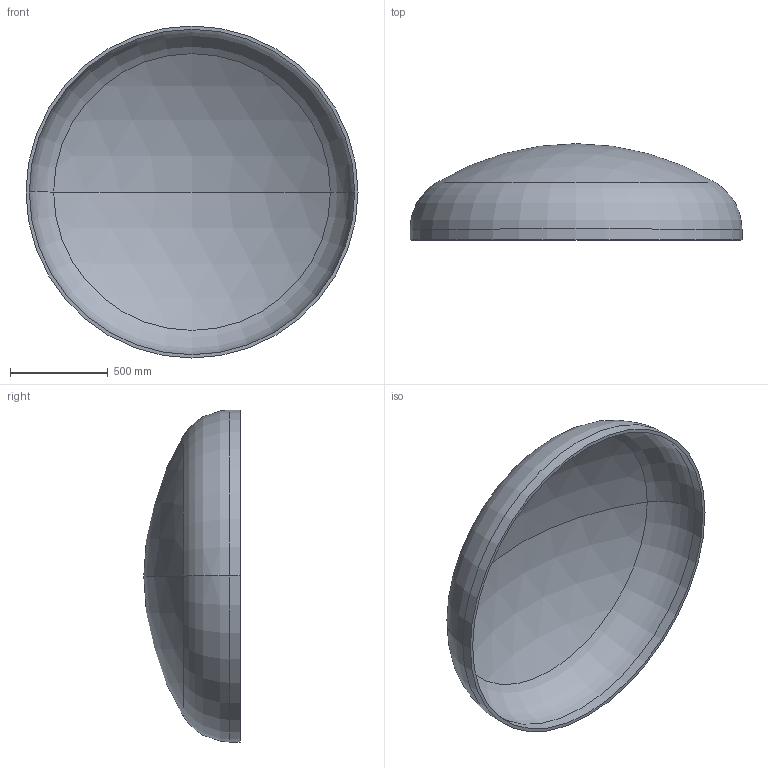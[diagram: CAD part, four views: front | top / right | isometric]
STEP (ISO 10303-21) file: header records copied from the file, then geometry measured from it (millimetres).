
FILE_DESCRIPTION (( 'STEP AP203' ), '1' );
FILE_NAME ('DIN 28013 Korbbogenform_-_Boden DIN 28013 - 1700 x 55 - I - s=17.step', '2016-07-01T11:39:20', ( '' ), ( '' ), 'SwSTEP 2.0', 'SolidWorks 2013', '' );
FILE_SCHEMA (( 'CONFIG_CONTROL_DESIGN' ));
Length unit declared in the file: millimetre
Products named in the file (1): DIN 28013 Korbbogenform_-_Boden DIN 28013 - 1700 x 55 - I - s=17
Bounding box: 1700 x 493.03 x 1700 mm (x, y, z)
Volume: 57612334.2 mm3; surface area: 6868408.6 mm2
Topology: 1 solids, 1 shells, 13 faces, 24 edges, 14 vertices
Faces by surface type: torus 4, cylinder 4, sphere 4, plane 1
Entity records: 407 total; most frequent: DIRECTION 72, CARTESIAN_POINT 52, ORIENTED_EDGE 48, AXIS2_PLACEMENT_3D 34, EDGE_CURVE 24, CIRCLE 20, VERTEX_POINT 14, EDGE_LOOP 14
